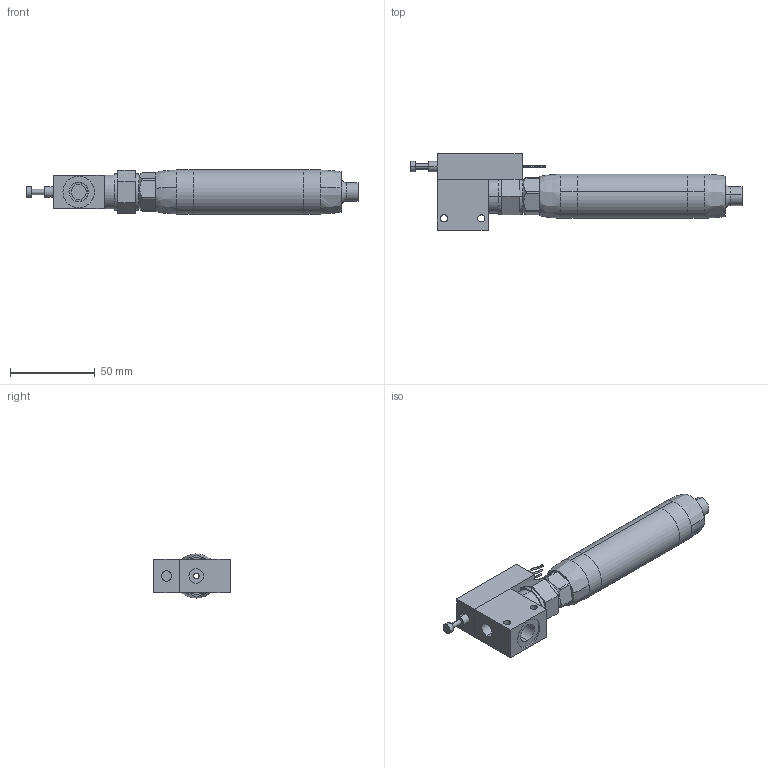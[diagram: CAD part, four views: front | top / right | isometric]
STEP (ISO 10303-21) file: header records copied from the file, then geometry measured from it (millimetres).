
FILE_DESCRIPTION (( 'STEP AP214' ), '1' );
FILE_NAME ('2EJMV8016H0P.STEP', '2016-09-19T07:46:55', ( '' ), ( '' ), 'SwSTEP 2.0', 'SolidWorks 2010', '' );
FILE_SCHEMA (( 'AUTOMOTIVE_DESIGN' ));
Length unit declared in the file: millimetre
Products named in the file (14): 9VE3J0E0012; S0717E03_long; S0717006_long; S0861F03; Vis sans tete 6 pans creux a bout plat_Vis sans tête 6 pans creux à bout plat M  2,5 Lg:5; 2EJMV8016H0P; S0717008_9BS210506; S0717005_elipse court; FILTRES TAMIS_F70.60234.200; S0717004_elipse court; S071505; S095102_2EJMV8000COR00; S0717009_S0717010; F64D52338H15
Assembly tree (13 placements, depth 3):
  2EJMV8016H0P
    S0717E03_long
      S0717005_elipse court
      S0717006_long
      S0717009_S0717010
      S0717008_9BS210506
      S0717004_elipse court
    S0861F03
    F64D52338H15
    Vis sans tete 6 pans creux a bout plat_Vis sans tête 6 pans creux à bout plat M  2,5 Lg:5
    FILTRES TAMIS_F70.60234.200
    9VE3J0E0012
    S095102_2EJMV8000COR00
    S071505
Bounding box: 195.5 x 45 x 26 mm (x, y, z)
Volume: 80170.7 mm3; surface area: 65746.7 mm2
Topology: 12 solids, 12 shells, 317 faces, 703 edges, 442 vertices
Faces by surface type: cylinder 125, plane 94, cone 52, torus 32, bspline 14
Entity records: 11447 total; most frequent: CARTESIAN_POINT 2521, DIRECTION 1683, ORIENTED_EDGE 1394, AXIS2_PLACEMENT_3D 708, EDGE_CURVE 697, VERTEX_POINT 442, CIRCLE 388, EDGE_LOOP 381
